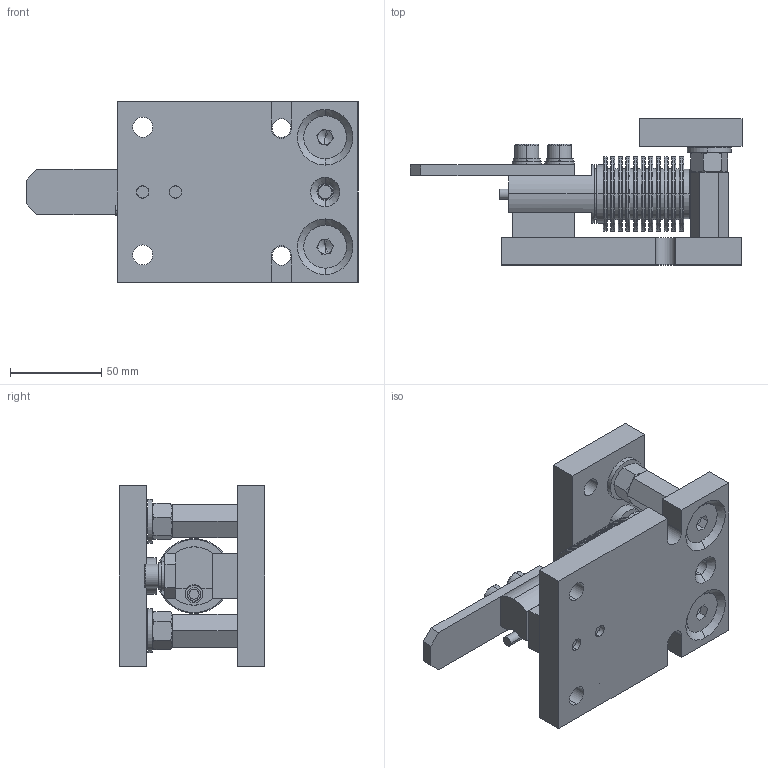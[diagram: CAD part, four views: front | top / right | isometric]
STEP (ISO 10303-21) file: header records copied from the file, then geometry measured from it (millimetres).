
FILE_DESCRIPTION (( 'STEP AP214' ), '1' );
FILE_NAME ('Einbauhilfe EBH-KS-355.STEP', '2023-01-09T12:11:04', ( '' ), ( '' ), 'SwSTEP 2.0', 'SolidWorks 2019', '' );
FILE_SCHEMA (( 'AUTOMOTIVE_DESIGN' ));
Length unit declared in the file: millimetre
Products named in the file (43): EBH-KS-355 Zwischenplatte; EBH-KS-355 Kugelpfanne - Web; plain washer grade c_din_Washer DIN 126 - 9; plain washer grade c_din; EBH-KS-355 Sicherungsplatte; EBH-KS-355 Grundplatte; curved spring lock washer_din; Einbauhilfe EBH-KS-355; EBH-KS-355 Verlängerungsmutter; hex nut style 1 gradeab_din; 355; socket head cap screw_din; socket countersunk head screw_schrauben; o-rings series g_din; o-rings series g_din_O-ring DIN 3771 - 5x1.8; plain washer grade c_din_Washer DIN 126 - 13.5; socket countersunk head screw_schrauben_DIN 7991 - M12 x 45 --- 45S; curved spring lock washer_din_Spring washer DIN 128 - A8; EBH-KS-355 Kugel; socket countersunk head screw_schrauben_DIN 7991 - M12 x 30 --- 18.2S; EBH-KS-355 Anschraubplatte; socket head cap screw_din_DIN 912 M8 x 55 --- 28S; hex nut style 1 gradeab_din_Hexagon Nut ISO 4032 - M12 - D - N
Assembly tree (26 placements, depth 2):
  EBH-KS-355 Kugelpfanne - Web
  plain washer grade c_din
  EBH-KS-355 Sicherungsplatte
  EBH-KS-355 Grundplatte
  curved spring lock washer_din
Bounding box: 182 x 80 x 99 mm (x, y, z)
Volume: 393906 mm3; surface area: 125972.8 mm2
Topology: 27 solids, 27 shells, 1279 faces, 3133 edges, 1931 vertices
Faces by surface type: cone 574, cylinder 388, plane 243, torus 72, sphere 2
Entity records: 24628 total; most frequent: DIRECTION 4524, CARTESIAN_POINT 4196, ORIENTED_EDGE 3776, EDGE_CURVE 1888, AXIS2_PLACEMENT_3D 1871, VERTEX_POINT 1173, CIRCLE 1056, EDGE_LOOP 869
